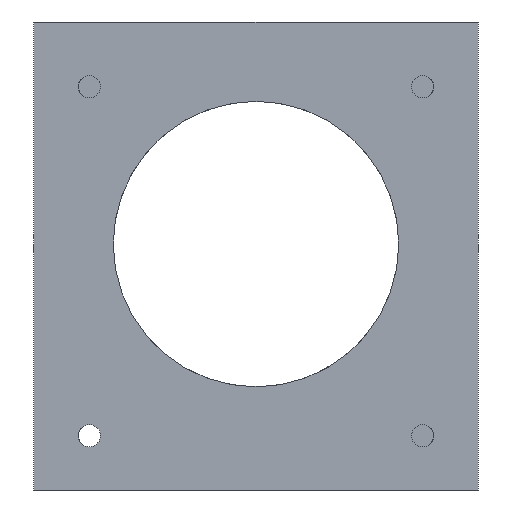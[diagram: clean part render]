
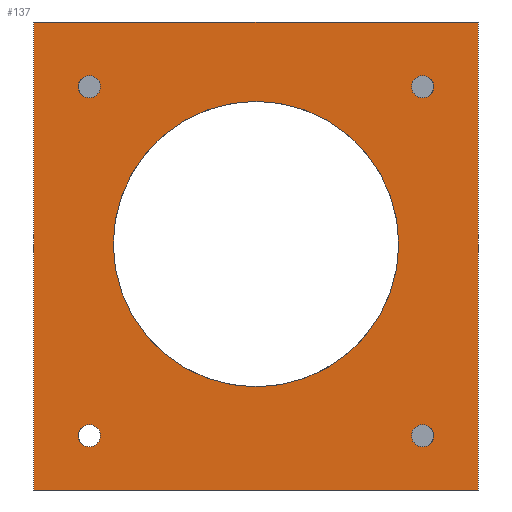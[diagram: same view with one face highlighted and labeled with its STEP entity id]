
A CAD part, front view. The second image highlights one B-rep face of the part: STEP entity #137.
In plain terms, the highlighted planar face has unit normal (0, -1, 0).
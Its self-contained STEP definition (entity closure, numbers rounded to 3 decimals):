
#21 = EDGE_CURVE('',#22,#24,#26,.T.);
#22 = VERTEX_POINT('',#23);
#23 = CARTESIAN_POINT('',(-56.,-33.,0.));
#24 = VERTEX_POINT('',#25);
#25 = CARTESIAN_POINT('',(-56.,-33.,118.));
#26 = SURFACE_CURVE('',#27,(#31,#43),.PCURVE_S1.);
#27 = LINE('',#28,#29);
#28 = CARTESIAN_POINT('',(-56.,-33.,0.));
#29 = VECTOR('',#30,1.);
#30 = DIRECTION('',(0.,0.,1.));
#31 = PCURVE('',#32,#37);
#32 = PLANE('',#33);
#33 = AXIS2_PLACEMENT_3D('',#34,#35,#36);
#34 = CARTESIAN_POINT('',(-56.,-33.,0.));
#35 = DIRECTION('',(1.,0.,0.));
#36 = DIRECTION('',(0.,0.,1.));
#37 = DEFINITIONAL_REPRESENTATION('',(#38),#42);
#38 = LINE('',#39,#40);
#39 = CARTESIAN_POINT('',(0.,0.));
#40 = VECTOR('',#41,1.);
#41 = DIRECTION('',(1.,0.));
#42 = ( GEOMETRIC_REPRESENTATION_CONTEXT(2) 
PARAMETRIC_REPRESENTATION_CONTEXT() REPRESENTATION_CONTEXT('2D SPACE',''
  ) );
#43 = PCURVE('',#44,#49);
#44 = PLANE('',#45);
#45 = AXIS2_PLACEMENT_3D('',#46,#47,#48);
#46 = CARTESIAN_POINT('',(-56.,-33.,0.));
#47 = DIRECTION('',(0.,1.,0.));
#48 = DIRECTION('',(0.,0.,1.));
#49 = DEFINITIONAL_REPRESENTATION('',(#50),#54);
#50 = LINE('',#51,#52);
#51 = CARTESIAN_POINT('',(0.,0.));
#52 = VECTOR('',#53,1.);
#53 = DIRECTION('',(1.,0.));
#54 = ( GEOMETRIC_REPRESENTATION_CONTEXT(2) 
PARAMETRIC_REPRESENTATION_CONTEXT() REPRESENTATION_CONTEXT('2D SPACE',''
  ) );
#72 = PLANE('',#73);
#73 = AXIS2_PLACEMENT_3D('',#74,#75,#76);
#74 = CARTESIAN_POINT('',(-56.,-33.,0.));
#75 = DIRECTION('',(0.,0.,1.));
#76 = DIRECTION('',(1.,0.,0.));
#126 = PLANE('',#127);
#127 = AXIS2_PLACEMENT_3D('',#128,#129,#130);
#128 = CARTESIAN_POINT('',(-56.,-33.,118.));
#129 = DIRECTION('',(0.,0.,1.));
#130 = DIRECTION('',(1.,0.,0.));
#137 = ADVANCED_FACE('',(#138,#213,#244,#275,#306,#337),#44,.F.);
#138 = FACE_BOUND('',#139,.F.);
#139 = EDGE_LOOP('',(#140,#163,#164,#187));
#140 = ORIENTED_EDGE('',*,*,#141,.F.);
#141 = EDGE_CURVE('',#22,#142,#144,.T.);
#142 = VERTEX_POINT('',#143);
#143 = CARTESIAN_POINT('',(56.,-33.,0.));
#144 = SURFACE_CURVE('',#145,(#149,#156),.PCURVE_S1.);
#145 = LINE('',#146,#147);
#146 = CARTESIAN_POINT('',(-56.,-33.,0.));
#147 = VECTOR('',#148,1.);
#148 = DIRECTION('',(1.,0.,0.));
#149 = PCURVE('',#44,#150);
#150 = DEFINITIONAL_REPRESENTATION('',(#151),#155);
#151 = LINE('',#152,#153);
#152 = CARTESIAN_POINT('',(0.,0.));
#153 = VECTOR('',#154,1.);
#154 = DIRECTION('',(0.,1.));
#155 = ( GEOMETRIC_REPRESENTATION_CONTEXT(2) 
PARAMETRIC_REPRESENTATION_CONTEXT() REPRESENTATION_CONTEXT('2D SPACE',''
  ) );
#156 = PCURVE('',#72,#157);
#157 = DEFINITIONAL_REPRESENTATION('',(#158),#162);
#158 = LINE('',#159,#160);
#159 = CARTESIAN_POINT('',(0.,0.));
#160 = VECTOR('',#161,1.);
#161 = DIRECTION('',(1.,0.));
#162 = ( GEOMETRIC_REPRESENTATION_CONTEXT(2) 
PARAMETRIC_REPRESENTATION_CONTEXT() REPRESENTATION_CONTEXT('2D SPACE',''
  ) );
#163 = ORIENTED_EDGE('',*,*,#21,.T.);
#164 = ORIENTED_EDGE('',*,*,#165,.T.);
#165 = EDGE_CURVE('',#24,#166,#168,.T.);
#166 = VERTEX_POINT('',#167);
#167 = CARTESIAN_POINT('',(56.,-33.,118.));
#168 = SURFACE_CURVE('',#169,(#173,#180),.PCURVE_S1.);
#169 = LINE('',#170,#171);
#170 = CARTESIAN_POINT('',(-56.,-33.,118.));
#171 = VECTOR('',#172,1.);
#172 = DIRECTION('',(1.,0.,0.));
#173 = PCURVE('',#44,#174);
#174 = DEFINITIONAL_REPRESENTATION('',(#175),#179);
#175 = LINE('',#176,#177);
#176 = CARTESIAN_POINT('',(118.,0.));
#177 = VECTOR('',#178,1.);
#178 = DIRECTION('',(0.,1.));
#179 = ( GEOMETRIC_REPRESENTATION_CONTEXT(2) 
PARAMETRIC_REPRESENTATION_CONTEXT() REPRESENTATION_CONTEXT('2D SPACE',''
  ) );
#180 = PCURVE('',#126,#181);
#181 = DEFINITIONAL_REPRESENTATION('',(#182),#186);
#182 = LINE('',#183,#184);
#183 = CARTESIAN_POINT('',(0.,0.));
#184 = VECTOR('',#185,1.);
#185 = DIRECTION('',(1.,0.));
#186 = ( GEOMETRIC_REPRESENTATION_CONTEXT(2) 
PARAMETRIC_REPRESENTATION_CONTEXT() REPRESENTATION_CONTEXT('2D SPACE',''
  ) );
#187 = ORIENTED_EDGE('',*,*,#188,.F.);
#188 = EDGE_CURVE('',#142,#166,#189,.T.);
#189 = SURFACE_CURVE('',#190,(#194,#201),.PCURVE_S1.);
#190 = LINE('',#191,#192);
#191 = CARTESIAN_POINT('',(56.,-33.,0.));
#192 = VECTOR('',#193,1.);
#193 = DIRECTION('',(0.,0.,1.));
#194 = PCURVE('',#44,#195);
#195 = DEFINITIONAL_REPRESENTATION('',(#196),#200);
#196 = LINE('',#197,#198);
#197 = CARTESIAN_POINT('',(0.,112.));
#198 = VECTOR('',#199,1.);
#199 = DIRECTION('',(1.,0.));
#200 = ( GEOMETRIC_REPRESENTATION_CONTEXT(2) 
PARAMETRIC_REPRESENTATION_CONTEXT() REPRESENTATION_CONTEXT('2D SPACE',''
  ) );
#201 = PCURVE('',#202,#207);
#202 = PLANE('',#203);
#203 = AXIS2_PLACEMENT_3D('',#204,#205,#206);
#204 = CARTESIAN_POINT('',(56.,-33.,0.));
#205 = DIRECTION('',(1.,0.,0.));
#206 = DIRECTION('',(0.,0.,1.));
#207 = DEFINITIONAL_REPRESENTATION('',(#208),#212);
#208 = LINE('',#209,#210);
#209 = CARTESIAN_POINT('',(0.,0.));
#210 = VECTOR('',#211,1.);
#211 = DIRECTION('',(1.,0.));
#212 = ( GEOMETRIC_REPRESENTATION_CONTEXT(2) 
PARAMETRIC_REPRESENTATION_CONTEXT() REPRESENTATION_CONTEXT('2D SPACE',''
  ) );
#213 = FACE_BOUND('',#214,.F.);
#214 = EDGE_LOOP('',(#215));
#215 = ORIENTED_EDGE('',*,*,#216,.F.);
#216 = EDGE_CURVE('',#217,#217,#219,.T.);
#217 = VERTEX_POINT('',#218);
#218 = CARTESIAN_POINT('',(-44.8,-33.,13.664));
#219 = SURFACE_CURVE('',#220,(#225,#232),.PCURVE_S1.);
#220 = CIRCLE('',#221,2.8);
#221 = AXIS2_PLACEMENT_3D('',#222,#223,#224);
#222 = CARTESIAN_POINT('',(-42.,-33.,13.664));
#223 = DIRECTION('',(0.,1.,-0.));
#224 = DIRECTION('',(-1.,0.,0.));
#225 = PCURVE('',#44,#226);
#226 = DEFINITIONAL_REPRESENTATION('',(#227),#231);
#227 = CIRCLE('',#228,2.8);
#228 = AXIS2_PLACEMENT_2D('',#229,#230);
#229 = CARTESIAN_POINT('',(13.664,14.));
#230 = DIRECTION('',(0.,-1.));
#231 = ( GEOMETRIC_REPRESENTATION_CONTEXT(2) 
PARAMETRIC_REPRESENTATION_CONTEXT() REPRESENTATION_CONTEXT('2D SPACE',''
  ) );
#232 = PCURVE('',#233,#238);
#233 = CYLINDRICAL_SURFACE('',#234,2.8);
#234 = AXIS2_PLACEMENT_3D('',#235,#236,#237);
#235 = CARTESIAN_POINT('',(-42.,-33.,13.664));
#236 = DIRECTION('',(0.,1.,0.));
#237 = DIRECTION('',(-1.,0.,0.));
#238 = DEFINITIONAL_REPRESENTATION('',(#239),#243);
#239 = LINE('',#240,#241);
#240 = CARTESIAN_POINT('',(0.,0.));
#241 = VECTOR('',#242,1.);
#242 = DIRECTION('',(1.,0.));
#243 = ( GEOMETRIC_REPRESENTATION_CONTEXT(2) 
PARAMETRIC_REPRESENTATION_CONTEXT() REPRESENTATION_CONTEXT('2D SPACE',''
  ) );
#244 = FACE_BOUND('',#245,.F.);
#245 = EDGE_LOOP('',(#246));
#246 = ORIENTED_EDGE('',*,*,#247,.F.);
#247 = EDGE_CURVE('',#248,#248,#250,.T.);
#248 = VERTEX_POINT('',#249);
#249 = CARTESIAN_POINT('',(-44.8,-33.,101.664));
#250 = SURFACE_CURVE('',#251,(#256,#263),.PCURVE_S1.);
#251 = CIRCLE('',#252,2.8);
#252 = AXIS2_PLACEMENT_3D('',#253,#254,#255);
#253 = CARTESIAN_POINT('',(-42.,-33.,101.664));
#254 = DIRECTION('',(0.,1.,-0.));
#255 = DIRECTION('',(-1.,0.,0.));
#256 = PCURVE('',#44,#257);
#257 = DEFINITIONAL_REPRESENTATION('',(#258),#262);
#258 = CIRCLE('',#259,2.8);
#259 = AXIS2_PLACEMENT_2D('',#260,#261);
#260 = CARTESIAN_POINT('',(101.664,14.));
#261 = DIRECTION('',(0.,-1.));
#262 = ( GEOMETRIC_REPRESENTATION_CONTEXT(2) 
PARAMETRIC_REPRESENTATION_CONTEXT() REPRESENTATION_CONTEXT('2D SPACE',''
  ) );
#263 = PCURVE('',#264,#269);
#264 = CYLINDRICAL_SURFACE('',#265,2.8);
#265 = AXIS2_PLACEMENT_3D('',#266,#267,#268);
#266 = CARTESIAN_POINT('',(-42.,-33.,101.664));
#267 = DIRECTION('',(0.,1.,0.));
#268 = DIRECTION('',(-1.,0.,0.));
#269 = DEFINITIONAL_REPRESENTATION('',(#270),#274);
#270 = LINE('',#271,#272);
#271 = CARTESIAN_POINT('',(0.,0.));
#272 = VECTOR('',#273,1.);
#273 = DIRECTION('',(1.,0.));
#274 = ( GEOMETRIC_REPRESENTATION_CONTEXT(2) 
PARAMETRIC_REPRESENTATION_CONTEXT() REPRESENTATION_CONTEXT('2D SPACE',''
  ) );
#275 = FACE_BOUND('',#276,.F.);
#276 = EDGE_LOOP('',(#277));
#277 = ORIENTED_EDGE('',*,*,#278,.F.);
#278 = EDGE_CURVE('',#279,#279,#281,.T.);
#279 = VERTEX_POINT('',#280);
#280 = CARTESIAN_POINT('',(39.2,-33.,13.664));
#281 = SURFACE_CURVE('',#282,(#287,#294),.PCURVE_S1.);
#282 = CIRCLE('',#283,2.8);
#283 = AXIS2_PLACEMENT_3D('',#284,#285,#286);
#284 = CARTESIAN_POINT('',(42.,-33.,13.664));
#285 = DIRECTION('',(0.,1.,-0.));
#286 = DIRECTION('',(-1.,0.,0.));
#287 = PCURVE('',#44,#288);
#288 = DEFINITIONAL_REPRESENTATION('',(#289),#293);
#289 = CIRCLE('',#290,2.8);
#290 = AXIS2_PLACEMENT_2D('',#291,#292);
#291 = CARTESIAN_POINT('',(13.664,98.));
#292 = DIRECTION('',(0.,-1.));
#293 = ( GEOMETRIC_REPRESENTATION_CONTEXT(2) 
PARAMETRIC_REPRESENTATION_CONTEXT() REPRESENTATION_CONTEXT('2D SPACE',''
  ) );
#294 = PCURVE('',#295,#300);
#295 = CYLINDRICAL_SURFACE('',#296,2.8);
#296 = AXIS2_PLACEMENT_3D('',#297,#298,#299);
#297 = CARTESIAN_POINT('',(42.,-33.,13.664));
#298 = DIRECTION('',(0.,1.,0.));
#299 = DIRECTION('',(-1.,0.,0.));
#300 = DEFINITIONAL_REPRESENTATION('',(#301),#305);
#301 = LINE('',#302,#303);
#302 = CARTESIAN_POINT('',(0.,0.));
#303 = VECTOR('',#304,1.);
#304 = DIRECTION('',(1.,0.));
#305 = ( GEOMETRIC_REPRESENTATION_CONTEXT(2) 
PARAMETRIC_REPRESENTATION_CONTEXT() REPRESENTATION_CONTEXT('2D SPACE',''
  ) );
#306 = FACE_BOUND('',#307,.F.);
#307 = EDGE_LOOP('',(#308));
#308 = ORIENTED_EDGE('',*,*,#309,.F.);
#309 = EDGE_CURVE('',#310,#310,#312,.T.);
#310 = VERTEX_POINT('',#311);
#311 = CARTESIAN_POINT('',(36.,-33.,62.));
#312 = SURFACE_CURVE('',#313,(#318,#325),.PCURVE_S1.);
#313 = CIRCLE('',#314,36.);
#314 = AXIS2_PLACEMENT_3D('',#315,#316,#317);
#315 = CARTESIAN_POINT('',(0.,-33.,62.));
#316 = DIRECTION('',(-0.,1.,0.));
#317 = DIRECTION('',(1.,0.,0.));
#318 = PCURVE('',#44,#319);
#319 = DEFINITIONAL_REPRESENTATION('',(#320),#324);
#320 = CIRCLE('',#321,36.);
#321 = AXIS2_PLACEMENT_2D('',#322,#323);
#322 = CARTESIAN_POINT('',(62.,56.));
#323 = DIRECTION('',(0.,1.));
#324 = ( GEOMETRIC_REPRESENTATION_CONTEXT(2) 
PARAMETRIC_REPRESENTATION_CONTEXT() REPRESENTATION_CONTEXT('2D SPACE',''
  ) );
#325 = PCURVE('',#326,#331);
#326 = CYLINDRICAL_SURFACE('',#327,36.);
#327 = AXIS2_PLACEMENT_3D('',#328,#329,#330);
#328 = CARTESIAN_POINT('',(0.,0.,62.));
#329 = DIRECTION('',(-0.,1.,-0.));
#330 = DIRECTION('',(1.,0.,0.));
#331 = DEFINITIONAL_REPRESENTATION('',(#332),#336);
#332 = LINE('',#333,#334);
#333 = CARTESIAN_POINT('',(-6.283,-33.));
#334 = VECTOR('',#335,1.);
#335 = DIRECTION('',(1.,-0.));
#336 = ( GEOMETRIC_REPRESENTATION_CONTEXT(2) 
PARAMETRIC_REPRESENTATION_CONTEXT() REPRESENTATION_CONTEXT('2D SPACE',''
  ) );
#337 = FACE_BOUND('',#338,.F.);
#338 = EDGE_LOOP('',(#339));
#339 = ORIENTED_EDGE('',*,*,#340,.F.);
#340 = EDGE_CURVE('',#341,#341,#343,.T.);
#341 = VERTEX_POINT('',#342);
#342 = CARTESIAN_POINT('',(39.2,-33.,101.664));
#343 = SURFACE_CURVE('',#344,(#349,#356),.PCURVE_S1.);
#344 = CIRCLE('',#345,2.8);
#345 = AXIS2_PLACEMENT_3D('',#346,#347,#348);
#346 = CARTESIAN_POINT('',(42.,-33.,101.664));
#347 = DIRECTION('',(0.,1.,-0.));
#348 = DIRECTION('',(-1.,0.,0.));
#349 = PCURVE('',#44,#350);
#350 = DEFINITIONAL_REPRESENTATION('',(#351),#355);
#351 = CIRCLE('',#352,2.8);
#352 = AXIS2_PLACEMENT_2D('',#353,#354);
#353 = CARTESIAN_POINT('',(101.664,98.));
#354 = DIRECTION('',(0.,-1.));
#355 = ( GEOMETRIC_REPRESENTATION_CONTEXT(2) 
PARAMETRIC_REPRESENTATION_CONTEXT() REPRESENTATION_CONTEXT('2D SPACE',''
  ) );
#356 = PCURVE('',#357,#362);
#357 = CYLINDRICAL_SURFACE('',#358,2.8);
#358 = AXIS2_PLACEMENT_3D('',#359,#360,#361);
#359 = CARTESIAN_POINT('',(42.,-33.,101.664));
#360 = DIRECTION('',(0.,1.,0.));
#361 = DIRECTION('',(-1.,0.,0.));
#362 = DEFINITIONAL_REPRESENTATION('',(#363),#367);
#363 = LINE('',#364,#365);
#364 = CARTESIAN_POINT('',(0.,0.));
#365 = VECTOR('',#366,1.);
#366 = DIRECTION('',(1.,0.));
#367 = ( GEOMETRIC_REPRESENTATION_CONTEXT(2) 
PARAMETRIC_REPRESENTATION_CONTEXT() REPRESENTATION_CONTEXT('2D SPACE',''
  ) );
